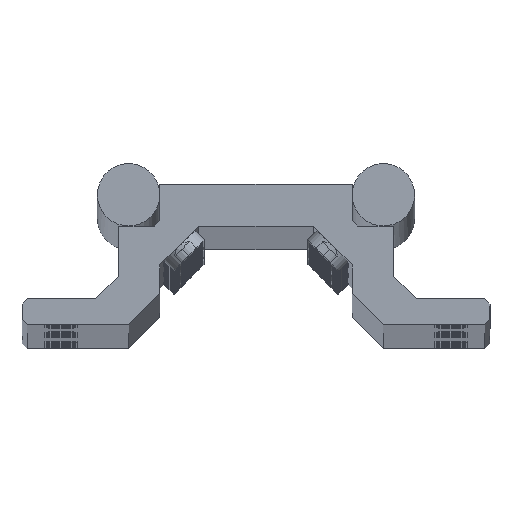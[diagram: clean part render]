
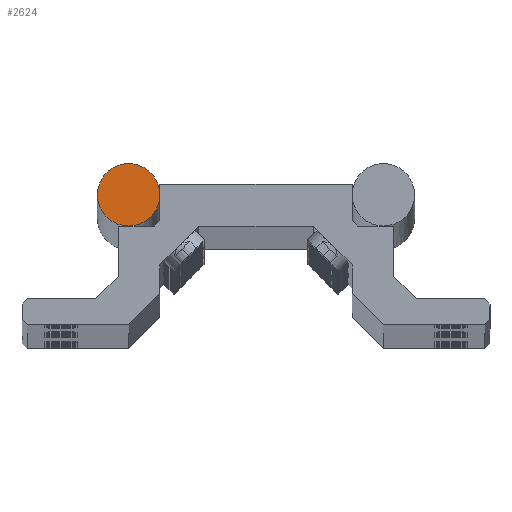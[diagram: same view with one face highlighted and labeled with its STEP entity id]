
A CAD part, top view. The second image highlights one B-rep face of the part: STEP entity #2624.
In plain terms, the highlighted planar face has unit normal (0, 0, 1).
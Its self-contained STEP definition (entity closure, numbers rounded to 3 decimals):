
#2441 = EDGE_CURVE ( 'NONE', #30795, #30800, #14111, .T. ) ;
#2624 = ADVANCED_FACE ( 'NONE', ( #14300 ), #14299, .T. ) ;
#2769 = EDGE_LOOP ( 'NONE', ( #2770, #2773 ) ) ;
#2770 = ORIENTED_EDGE ( 'NONE', *, *, #30797, .T. ) ;
#2773 = ORIENTED_EDGE ( 'NONE', *, *, #2441, .T. ) ;
#14107 = DIRECTION ( 'NONE',  ( 1., 0., 0. ) ) ;
#14108 = DIRECTION ( 'NONE',  ( 0., 0., 1. ) ) ;
#14109 = CARTESIAN_POINT ( 'NONE',  ( -24.5, 25., 1. ) ) ;
#14110 = AXIS2_PLACEMENT_3D ( 'NONE', #14109, #14108, #14107 ) ;
#14111 = CIRCLE ( 'NONE', #14110, 6. ) ;
#14299 = PLANE ( 'NONE',  #14364 ) ;
#14300 = FACE_OUTER_BOUND ( 'NONE', #2769, .T. ) ;
#14361 = DIRECTION ( 'NONE',  ( 1., 0., 0. ) ) ;
#14362 = DIRECTION ( 'NONE',  ( 0., 0., 1. ) ) ;
#14363 = CARTESIAN_POINT ( 'NONE',  ( -24.5, 25., 1. ) ) ;
#14364 = AXIS2_PLACEMENT_3D ( 'NONE', #14363, #14362, #14361 ) ;
#23275 = DIRECTION ( 'NONE',  ( 1., 0., 0. ) ) ;
#23765 = DIRECTION ( 'NONE',  ( 0., 0., 1. ) ) ;
#23771 = CARTESIAN_POINT ( 'NONE',  ( -24.5, 25., 1. ) ) ;
#24066 = CIRCLE ( 'NONE', #24563, 6. ) ;
#24563 = AXIS2_PLACEMENT_3D ( 'NONE', #23771, #23765, #23275 ) ;
#24564 = CARTESIAN_POINT ( 'NONE',  ( -30.5, 25., 1. ) ) ;
#24622 = CARTESIAN_POINT ( 'NONE',  ( -18.5, 25., 1. ) ) ;
#30795 = VERTEX_POINT ( 'NONE', #24564 ) ;
#30797 = EDGE_CURVE ( 'NONE', #30800, #30795, #24066, .T. ) ;
#30800 = VERTEX_POINT ( 'NONE', #24622 ) ;
